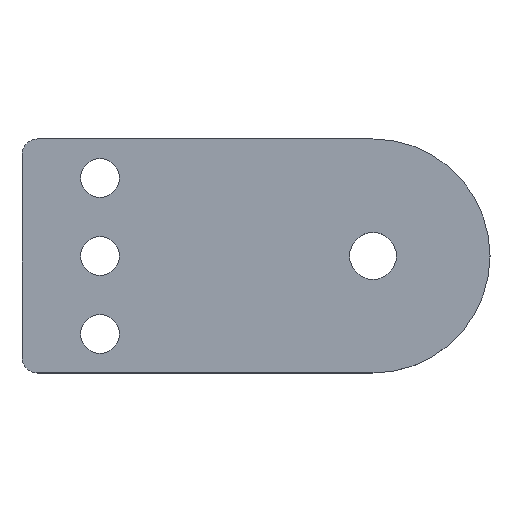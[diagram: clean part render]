
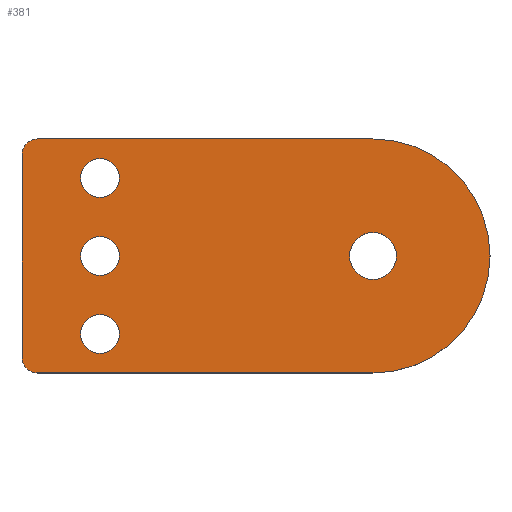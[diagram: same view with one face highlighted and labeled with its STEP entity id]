
A CAD part, top view. The second image highlights one B-rep face of the part: STEP entity #381.
In plain terms, the highlighted planar face has unit normal (0, 0, 1).
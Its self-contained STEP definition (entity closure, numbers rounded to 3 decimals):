
#81=CARTESIAN_POINT('',(0.,0.,3.));
#82=DIRECTION('',(0.,0.,-1.));
#83=DIRECTION('',(1.,0.,0.));
#84=AXIS2_PLACEMENT_3D('',#81,#82,#83);
#86=CARTESIAN_POINT('',(0.,0.,3.));
#87=DIRECTION('',(0.,0.,-1.));
#88=DIRECTION('',(-1.,0.,0.));
#89=AXIS2_PLACEMENT_3D('',#86,#87,#88);
#91=CARTESIAN_POINT('',(-35.,0.,3.));
#92=DIRECTION('',(0.,0.,-1.));
#93=DIRECTION('',(1.,0.,0.));
#94=AXIS2_PLACEMENT_3D('',#91,#92,#93);
#96=CARTESIAN_POINT('',(-35.,0.,3.));
#97=DIRECTION('',(0.,0.,-1.));
#98=DIRECTION('',(-1.,0.,0.));
#99=AXIS2_PLACEMENT_3D('',#96,#97,#98);
#101=CARTESIAN_POINT('',(-35.,10.,3.));
#102=DIRECTION('',(0.,0.,-1.));
#103=DIRECTION('',(1.,0.,0.));
#104=AXIS2_PLACEMENT_3D('',#101,#102,#103);
#106=CARTESIAN_POINT('',(-35.,10.,3.));
#107=DIRECTION('',(0.,0.,-1.));
#108=DIRECTION('',(-1.,0.,0.));
#109=AXIS2_PLACEMENT_3D('',#106,#107,#108);
#111=CARTESIAN_POINT('',(-35.,-10.,3.));
#112=DIRECTION('',(0.,0.,-1.));
#113=DIRECTION('',(1.,0.,0.));
#114=AXIS2_PLACEMENT_3D('',#111,#112,#113);
#116=CARTESIAN_POINT('',(-35.,-10.,3.));
#117=DIRECTION('',(0.,0.,-1.));
#118=DIRECTION('',(-1.,0.,0.));
#119=AXIS2_PLACEMENT_3D('',#116,#117,#118);
#121=CARTESIAN_POINT('',(-43.,13.,3.));
#122=DIRECTION('',(0.,0.,1.));
#123=DIRECTION('',(0.,1.,0.));
#124=AXIS2_PLACEMENT_3D('',#121,#122,#123);
#126=DIRECTION('',(-1.,0.,0.));
#127=VECTOR('',#126,43.);
#128=CARTESIAN_POINT('',(0.,15.,3.));
#129=LINE('',#128,#127);
#130=CARTESIAN_POINT('',(0.,0.,3.));
#131=DIRECTION('',(0.,0.,1.));
#132=DIRECTION('',(0.,-1.,0.));
#133=AXIS2_PLACEMENT_3D('',#130,#131,#132);
#135=DIRECTION('',(1.,0.,0.));
#136=VECTOR('',#135,43.);
#137=CARTESIAN_POINT('',(-43.,-15.,3.));
#138=LINE('',#137,#136);
#139=CARTESIAN_POINT('',(-43.,-13.,3.));
#140=DIRECTION('',(0.,0.,1.));
#141=DIRECTION('',(-1.,0.,0.));
#142=AXIS2_PLACEMENT_3D('',#139,#140,#141);
#144=DIRECTION('',(0.,-1.,0.));
#145=VECTOR('',#144,13.);
#146=CARTESIAN_POINT('',(-45.,0.,3.));
#147=LINE('',#146,#145);
#148=DIRECTION('',(0.,-1.,0.));
#149=VECTOR('',#148,13.);
#150=CARTESIAN_POINT('',(-45.,13.,3.));
#151=LINE('',#150,#149);
#212=CARTESIAN_POINT('',(3.,0.,3.));
#213=CARTESIAN_POINT('',(-3.,0.,3.));
#214=VERTEX_POINT('',#212);
#215=VERTEX_POINT('',#213);
#216=CARTESIAN_POINT('',(0.,-15.,3.));
#217=CARTESIAN_POINT('',(0.,15.,3.));
#218=VERTEX_POINT('',#216);
#219=VERTEX_POINT('',#217);
#221=CARTESIAN_POINT('',(-45.,0.,3.));
#223=VERTEX_POINT('',#221);
#236=CARTESIAN_POINT('',(-32.5,0.,3.));
#237=CARTESIAN_POINT('',(-37.5,0.,3.));
#238=VERTEX_POINT('',#236);
#239=VERTEX_POINT('',#237);
#240=CARTESIAN_POINT('',(-32.5,10.,3.));
#241=CARTESIAN_POINT('',(-37.5,10.,3.));
#242=VERTEX_POINT('',#240);
#243=VERTEX_POINT('',#241);
#244=CARTESIAN_POINT('',(-32.5,-10.,3.));
#245=CARTESIAN_POINT('',(-37.5,-10.,3.));
#246=VERTEX_POINT('',#244);
#247=VERTEX_POINT('',#245);
#252=CARTESIAN_POINT('',(-43.,15.,3.));
#253=VERTEX_POINT('',#252);
#254=CARTESIAN_POINT('',(-45.,13.,3.));
#255=VERTEX_POINT('',#254);
#260=CARTESIAN_POINT('',(-45.,-13.,3.));
#261=VERTEX_POINT('',#260);
#262=CARTESIAN_POINT('',(-43.,-15.,3.));
#263=VERTEX_POINT('',#262);
#338=CARTESIAN_POINT('',(0.,0.,3.));
#339=DIRECTION('',(0.,0.,1.));
#340=DIRECTION('',(1.,0.,0.));
#341=AXIS2_PLACEMENT_3D('',#338,#339,#340);
#342=PLANE('',#341);
#344=ORIENTED_EDGE('',*,*,#343,.F.);
#346=ORIENTED_EDGE('',*,*,#345,.F.);
#348=ORIENTED_EDGE('',*,*,#347,.F.);
#350=ORIENTED_EDGE('',*,*,#349,.F.);
#352=ORIENTED_EDGE('',*,*,#351,.F.);
#354=ORIENTED_EDGE('',*,*,#353,.F.);
#356=ORIENTED_EDGE('',*,*,#355,.F.);
#357=EDGE_LOOP('',(#344,#346,#348,#350,#352,#354,#356));
#358=FACE_OUTER_BOUND('',#357,.F.);
#360=ORIENTED_EDGE('',*,*,#359,.F.);
#362=ORIENTED_EDGE('',*,*,#361,.F.);
#363=EDGE_LOOP('',(#360,#362));
#364=FACE_BOUND('',#363,.F.);
#366=ORIENTED_EDGE('',*,*,#365,.F.);
#368=ORIENTED_EDGE('',*,*,#367,.F.);
#369=EDGE_LOOP('',(#366,#368));
#370=FACE_BOUND('',#369,.F.);
#372=ORIENTED_EDGE('',*,*,#371,.F.);
#374=ORIENTED_EDGE('',*,*,#373,.F.);
#375=EDGE_LOOP('',(#372,#374));
#376=FACE_BOUND('',#375,.F.);
#377=ORIENTED_EDGE('',*,*,#318,.F.);
#378=ORIENTED_EDGE('',*,*,#332,.F.);
#379=EDGE_LOOP('',(#377,#378));
#380=FACE_BOUND('',#379,.F.);
#381=ADVANCED_FACE('',(#358,#364,#370,#376,#380),#342,.T.);
#85=CIRCLE('',#84,3.);
#90=CIRCLE('',#89,3.);
#95=CIRCLE('',#94,2.5);
#100=CIRCLE('',#99,2.5);
#105=CIRCLE('',#104,2.5);
#110=CIRCLE('',#109,2.5);
#115=CIRCLE('',#114,2.5);
#120=CIRCLE('',#119,2.5);
#125=CIRCLE('',#124,2.);
#134=CIRCLE('',#133,15.);
#143=CIRCLE('',#142,2.);
#318=EDGE_CURVE('',#214,#215,#85,.T.);
#332=EDGE_CURVE('',#215,#214,#90,.T.);
#343=EDGE_CURVE('',#253,#255,#125,.T.);
#345=EDGE_CURVE('',#219,#253,#129,.T.);
#347=EDGE_CURVE('',#218,#219,#134,.T.);
#349=EDGE_CURVE('',#263,#218,#138,.T.);
#351=EDGE_CURVE('',#261,#263,#143,.T.);
#353=EDGE_CURVE('',#223,#261,#147,.T.);
#355=EDGE_CURVE('',#255,#223,#151,.T.);
#359=EDGE_CURVE('',#238,#239,#95,.T.);
#361=EDGE_CURVE('',#239,#238,#100,.T.);
#365=EDGE_CURVE('',#242,#243,#105,.T.);
#367=EDGE_CURVE('',#243,#242,#110,.T.);
#371=EDGE_CURVE('',#246,#247,#115,.T.);
#373=EDGE_CURVE('',#247,#246,#120,.T.);
